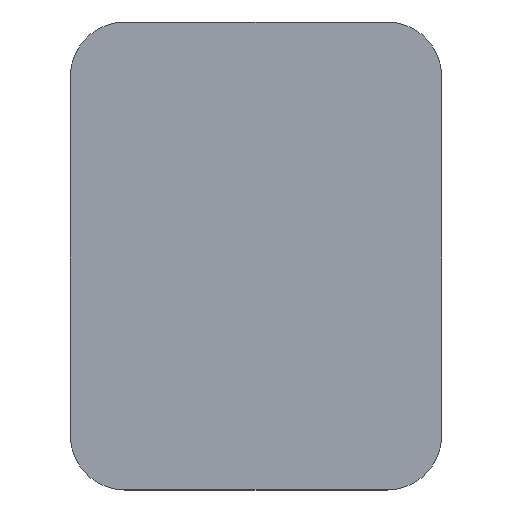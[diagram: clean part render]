
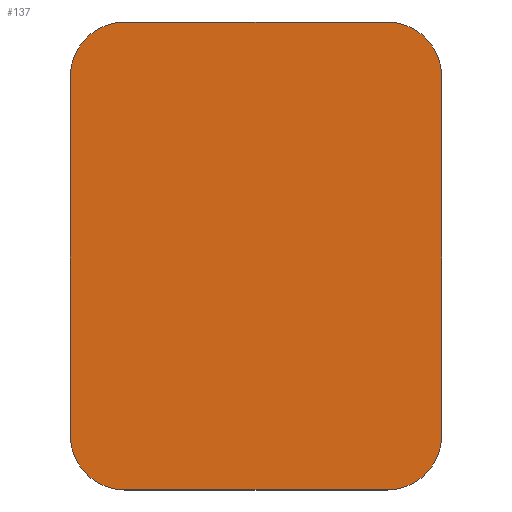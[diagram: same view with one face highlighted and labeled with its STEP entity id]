
A CAD part, top view. The second image highlights one B-rep face of the part: STEP entity #137.
In plain terms, the highlighted planar face has unit normal (0, 0, 1).
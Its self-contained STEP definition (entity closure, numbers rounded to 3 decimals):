
#21 = EDGE_CURVE('',#22,#24,#26,.T.);
#22 = VERTEX_POINT('',#23);
#23 = CARTESIAN_POINT('',(-26.9,-2.,13.6));
#24 = VERTEX_POINT('',#25);
#25 = CARTESIAN_POINT('',(-26.9,50.,13.6));
#26 = SURFACE_CURVE('',#27,(#31,#43),.PCURVE_S1.);
#27 = LINE('',#28,#29);
#28 = CARTESIAN_POINT('',(-26.9,-9.9,13.6));
#29 = VECTOR('',#30,1.);
#30 = DIRECTION('',(0.,1.,0.));
#31 = PCURVE('',#32,#37);
#32 = PLANE('',#33);
#33 = AXIS2_PLACEMENT_3D('',#34,#35,#36);
#34 = CARTESIAN_POINT('',(-26.9,-9.9,13.));
#35 = DIRECTION('',(1.,0.,0.));
#36 = DIRECTION('',(0.,0.,1.));
#37 = DEFINITIONAL_REPRESENTATION('',(#38),#42);
#38 = LINE('',#39,#40);
#39 = CARTESIAN_POINT('',(0.6,0.));
#40 = VECTOR('',#41,1.);
#41 = DIRECTION('',(0.,-1.));
#42 = ( GEOMETRIC_REPRESENTATION_CONTEXT(2) 
PARAMETRIC_REPRESENTATION_CONTEXT() REPRESENTATION_CONTEXT('2D SPACE',''
  ) );
#43 = PCURVE('',#44,#49);
#44 = PLANE('',#45);
#45 = AXIS2_PLACEMENT_3D('',#46,#47,#48);
#46 = CARTESIAN_POINT('',(-26.9,-9.9,13.6));
#47 = DIRECTION('',(0.,0.,1.));
#48 = DIRECTION('',(1.,0.,0.));
#49 = DEFINITIONAL_REPRESENTATION('',(#50),#54);
#50 = LINE('',#51,#52);
#51 = CARTESIAN_POINT('',(0.,0.));
#52 = VECTOR('',#53,1.);
#53 = DIRECTION('',(0.,1.));
#54 = ( GEOMETRIC_REPRESENTATION_CONTEXT(2) 
PARAMETRIC_REPRESENTATION_CONTEXT() REPRESENTATION_CONTEXT('2D SPACE',''
  ) );
#72 = CYLINDRICAL_SURFACE('',#73,7.9);
#73 = AXIS2_PLACEMENT_3D('',#74,#75,#76);
#74 = CARTESIAN_POINT('',(-19.,-2.,13.));
#75 = DIRECTION('',(0.,0.,1.));
#76 = DIRECTION('',(-1.,-0.,0.));
#126 = CYLINDRICAL_SURFACE('',#127,7.9);
#127 = AXIS2_PLACEMENT_3D('',#128,#129,#130);
#128 = CARTESIAN_POINT('',(-19.,50.,13.));
#129 = DIRECTION('',(0.,0.,1.));
#130 = DIRECTION('',(-1.,-0.,0.));
#137 = ADVANCED_FACE('',(#138),#44,.T.);
#138 = FACE_BOUND('',#139,.T.);
#139 = EDGE_LOOP('',(#140,#141,#165,#193,#226,#254,#283,#311));
#140 = ORIENTED_EDGE('',*,*,#21,.F.);
#141 = ORIENTED_EDGE('',*,*,#142,.T.);
#142 = EDGE_CURVE('',#22,#143,#145,.T.);
#143 = VERTEX_POINT('',#144);
#144 = CARTESIAN_POINT('',(-19.,-9.9,13.6));
#145 = SURFACE_CURVE('',#146,(#151,#158),.PCURVE_S1.);
#146 = CIRCLE('',#147,7.9);
#147 = AXIS2_PLACEMENT_3D('',#148,#149,#150);
#148 = CARTESIAN_POINT('',(-19.,-2.,13.6));
#149 = DIRECTION('',(0.,0.,1.));
#150 = DIRECTION('',(0.,-1.,0.));
#151 = PCURVE('',#44,#152);
#152 = DEFINITIONAL_REPRESENTATION('',(#153),#157);
#153 = CIRCLE('',#154,7.9);
#154 = AXIS2_PLACEMENT_2D('',#155,#156);
#155 = CARTESIAN_POINT('',(7.9,7.9));
#156 = DIRECTION('',(0.,-1.));
#157 = ( GEOMETRIC_REPRESENTATION_CONTEXT(2) 
PARAMETRIC_REPRESENTATION_CONTEXT() REPRESENTATION_CONTEXT('2D SPACE',''
  ) );
#158 = PCURVE('',#72,#159);
#159 = DEFINITIONAL_REPRESENTATION('',(#160),#164);
#160 = LINE('',#161,#162);
#161 = CARTESIAN_POINT('',(-4.712,0.6));
#162 = VECTOR('',#163,1.);
#163 = DIRECTION('',(1.,0.));
#164 = ( GEOMETRIC_REPRESENTATION_CONTEXT(2) 
PARAMETRIC_REPRESENTATION_CONTEXT() REPRESENTATION_CONTEXT('2D SPACE',''
  ) );
#165 = ORIENTED_EDGE('',*,*,#166,.T.);
#166 = EDGE_CURVE('',#143,#167,#169,.T.);
#167 = VERTEX_POINT('',#168);
#168 = CARTESIAN_POINT('',(19.,-9.9,13.6));
#169 = SURFACE_CURVE('',#170,(#174,#181),.PCURVE_S1.);
#170 = LINE('',#171,#172);
#171 = CARTESIAN_POINT('',(-26.9,-9.9,13.6));
#172 = VECTOR('',#173,1.);
#173 = DIRECTION('',(1.,0.,0.));
#174 = PCURVE('',#44,#175);
#175 = DEFINITIONAL_REPRESENTATION('',(#176),#180);
#176 = LINE('',#177,#178);
#177 = CARTESIAN_POINT('',(0.,0.));
#178 = VECTOR('',#179,1.);
#179 = DIRECTION('',(1.,0.));
#180 = ( GEOMETRIC_REPRESENTATION_CONTEXT(2) 
PARAMETRIC_REPRESENTATION_CONTEXT() REPRESENTATION_CONTEXT('2D SPACE',''
  ) );
#181 = PCURVE('',#182,#187);
#182 = PLANE('',#183);
#183 = AXIS2_PLACEMENT_3D('',#184,#185,#186);
#184 = CARTESIAN_POINT('',(-26.9,-9.9,13.));
#185 = DIRECTION('',(0.,1.,0.));
#186 = DIRECTION('',(0.,0.,1.));
#187 = DEFINITIONAL_REPRESENTATION('',(#188),#192);
#188 = LINE('',#189,#190);
#189 = CARTESIAN_POINT('',(0.6,0.));
#190 = VECTOR('',#191,1.);
#191 = DIRECTION('',(0.,1.));
#192 = ( GEOMETRIC_REPRESENTATION_CONTEXT(2) 
PARAMETRIC_REPRESENTATION_CONTEXT() REPRESENTATION_CONTEXT('2D SPACE',''
  ) );
#193 = ORIENTED_EDGE('',*,*,#194,.F.);
#194 = EDGE_CURVE('',#195,#167,#197,.T.);
#195 = VERTEX_POINT('',#196);
#196 = CARTESIAN_POINT('',(26.9,-2.,13.6));
#197 = SURFACE_CURVE('',#198,(#203,#214),.PCURVE_S1.);
#198 = CIRCLE('',#199,7.9);
#199 = AXIS2_PLACEMENT_3D('',#200,#201,#202);
#200 = CARTESIAN_POINT('',(19.,-2.,13.6));
#201 = DIRECTION('',(-0.,-0.,-1.));
#202 = DIRECTION('',(0.,-1.,0.));
#203 = PCURVE('',#44,#204);
#204 = DEFINITIONAL_REPRESENTATION('',(#205),#213);
#205 = ( BOUNDED_CURVE() B_SPLINE_CURVE(2,(#206,#207,#208,#209,#210,#211
,#212),.UNSPECIFIED.,.T.,.F.) B_SPLINE_CURVE_WITH_KNOTS((1,2,2,2,2,1),(
    -2.094,0.,2.094,4.189,6.283,
8.378),.UNSPECIFIED.) CURVE() GEOMETRIC_REPRESENTATION_ITEM() 
RATIONAL_B_SPLINE_CURVE((1.,0.5,1.,0.5,1.,0.5,1.)) REPRESENTATION_ITEM(
  '') );
#206 = CARTESIAN_POINT('',(45.9,0.));
#207 = CARTESIAN_POINT('',(32.217,0.));
#208 = CARTESIAN_POINT('',(39.058,11.85));
#209 = CARTESIAN_POINT('',(45.9,23.7));
#210 = CARTESIAN_POINT('',(52.742,11.85));
#211 = CARTESIAN_POINT('',(59.583,0.));
#212 = CARTESIAN_POINT('',(45.9,0.));
#213 = ( GEOMETRIC_REPRESENTATION_CONTEXT(2) 
PARAMETRIC_REPRESENTATION_CONTEXT() REPRESENTATION_CONTEXT('2D SPACE',''
  ) );
#214 = PCURVE('',#215,#220);
#215 = CYLINDRICAL_SURFACE('',#216,7.9);
#216 = AXIS2_PLACEMENT_3D('',#217,#218,#219);
#217 = CARTESIAN_POINT('',(19.,-2.,13.));
#218 = DIRECTION('',(0.,0.,1.));
#219 = DIRECTION('',(1.,0.,-0.));
#220 = DEFINITIONAL_REPRESENTATION('',(#221),#225);
#221 = LINE('',#222,#223);
#222 = CARTESIAN_POINT('',(4.712,0.6));
#223 = VECTOR('',#224,1.);
#224 = DIRECTION('',(-1.,0.));
#225 = ( GEOMETRIC_REPRESENTATION_CONTEXT(2) 
PARAMETRIC_REPRESENTATION_CONTEXT() REPRESENTATION_CONTEXT('2D SPACE',''
  ) );
#226 = ORIENTED_EDGE('',*,*,#227,.T.);
#227 = EDGE_CURVE('',#195,#228,#230,.T.);
#228 = VERTEX_POINT('',#229);
#229 = CARTESIAN_POINT('',(26.9,50.,13.6));
#230 = SURFACE_CURVE('',#231,(#235,#242),.PCURVE_S1.);
#231 = LINE('',#232,#233);
#232 = CARTESIAN_POINT('',(26.9,-9.9,13.6));
#233 = VECTOR('',#234,1.);
#234 = DIRECTION('',(0.,1.,0.));
#235 = PCURVE('',#44,#236);
#236 = DEFINITIONAL_REPRESENTATION('',(#237),#241);
#237 = LINE('',#238,#239);
#238 = CARTESIAN_POINT('',(53.8,0.));
#239 = VECTOR('',#240,1.);
#240 = DIRECTION('',(0.,1.));
#241 = ( GEOMETRIC_REPRESENTATION_CONTEXT(2) 
PARAMETRIC_REPRESENTATION_CONTEXT() REPRESENTATION_CONTEXT('2D SPACE',''
  ) );
#242 = PCURVE('',#243,#248);
#243 = PLANE('',#244);
#244 = AXIS2_PLACEMENT_3D('',#245,#246,#247);
#245 = CARTESIAN_POINT('',(26.9,-9.9,13.));
#246 = DIRECTION('',(1.,0.,0.));
#247 = DIRECTION('',(0.,0.,1.));
#248 = DEFINITIONAL_REPRESENTATION('',(#249),#253);
#249 = LINE('',#250,#251);
#250 = CARTESIAN_POINT('',(0.6,0.));
#251 = VECTOR('',#252,1.);
#252 = DIRECTION('',(0.,-1.));
#253 = ( GEOMETRIC_REPRESENTATION_CONTEXT(2) 
PARAMETRIC_REPRESENTATION_CONTEXT() REPRESENTATION_CONTEXT('2D SPACE',''
  ) );
#254 = ORIENTED_EDGE('',*,*,#255,.T.);
#255 = EDGE_CURVE('',#228,#256,#258,.T.);
#256 = VERTEX_POINT('',#257);
#257 = CARTESIAN_POINT('',(19.,57.9,13.6));
#258 = SURFACE_CURVE('',#259,(#264,#271),.PCURVE_S1.);
#259 = CIRCLE('',#260,7.9);
#260 = AXIS2_PLACEMENT_3D('',#261,#262,#263);
#261 = CARTESIAN_POINT('',(19.,50.,13.6));
#262 = DIRECTION('',(0.,0.,1.));
#263 = DIRECTION('',(0.,-1.,0.));
#264 = PCURVE('',#44,#265);
#265 = DEFINITIONAL_REPRESENTATION('',(#266),#270);
#266 = CIRCLE('',#267,7.9);
#267 = AXIS2_PLACEMENT_2D('',#268,#269);
#268 = CARTESIAN_POINT('',(45.9,59.9));
#269 = DIRECTION('',(0.,-1.));
#270 = ( GEOMETRIC_REPRESENTATION_CONTEXT(2) 
PARAMETRIC_REPRESENTATION_CONTEXT() REPRESENTATION_CONTEXT('2D SPACE',''
  ) );
#271 = PCURVE('',#272,#277);
#272 = CYLINDRICAL_SURFACE('',#273,7.9);
#273 = AXIS2_PLACEMENT_3D('',#274,#275,#276);
#274 = CARTESIAN_POINT('',(19.,50.,13.));
#275 = DIRECTION('',(0.,0.,1.));
#276 = DIRECTION('',(1.,0.,-0.));
#277 = DEFINITIONAL_REPRESENTATION('',(#278),#282);
#278 = LINE('',#279,#280);
#279 = CARTESIAN_POINT('',(-1.571,0.6));
#280 = VECTOR('',#281,1.);
#281 = DIRECTION('',(1.,0.));
#282 = ( GEOMETRIC_REPRESENTATION_CONTEXT(2) 
PARAMETRIC_REPRESENTATION_CONTEXT() REPRESENTATION_CONTEXT('2D SPACE',''
  ) );
#283 = ORIENTED_EDGE('',*,*,#284,.F.);
#284 = EDGE_CURVE('',#285,#256,#287,.T.);
#285 = VERTEX_POINT('',#286);
#286 = CARTESIAN_POINT('',(-19.,57.9,13.6));
#287 = SURFACE_CURVE('',#288,(#292,#299),.PCURVE_S1.);
#288 = LINE('',#289,#290);
#289 = CARTESIAN_POINT('',(-26.9,57.9,13.6));
#290 = VECTOR('',#291,1.);
#291 = DIRECTION('',(1.,0.,0.));
#292 = PCURVE('',#44,#293);
#293 = DEFINITIONAL_REPRESENTATION('',(#294),#298);
#294 = LINE('',#295,#296);
#295 = CARTESIAN_POINT('',(0.,67.8));
#296 = VECTOR('',#297,1.);
#297 = DIRECTION('',(1.,0.));
#298 = ( GEOMETRIC_REPRESENTATION_CONTEXT(2) 
PARAMETRIC_REPRESENTATION_CONTEXT() REPRESENTATION_CONTEXT('2D SPACE',''
  ) );
#299 = PCURVE('',#300,#305);
#300 = PLANE('',#301);
#301 = AXIS2_PLACEMENT_3D('',#302,#303,#304);
#302 = CARTESIAN_POINT('',(-26.9,57.9,13.));
#303 = DIRECTION('',(0.,1.,0.));
#304 = DIRECTION('',(0.,0.,1.));
#305 = DEFINITIONAL_REPRESENTATION('',(#306),#310);
#306 = LINE('',#307,#308);
#307 = CARTESIAN_POINT('',(0.6,0.));
#308 = VECTOR('',#309,1.);
#309 = DIRECTION('',(0.,1.));
#310 = ( GEOMETRIC_REPRESENTATION_CONTEXT(2) 
PARAMETRIC_REPRESENTATION_CONTEXT() REPRESENTATION_CONTEXT('2D SPACE',''
  ) );
#311 = ORIENTED_EDGE('',*,*,#312,.F.);
#312 = EDGE_CURVE('',#24,#285,#313,.T.);
#313 = SURFACE_CURVE('',#314,(#319,#330),.PCURVE_S1.);
#314 = CIRCLE('',#315,7.9);
#315 = AXIS2_PLACEMENT_3D('',#316,#317,#318);
#316 = CARTESIAN_POINT('',(-19.,50.,13.6));
#317 = DIRECTION('',(-0.,-0.,-1.));
#318 = DIRECTION('',(0.,-1.,0.));
#319 = PCURVE('',#44,#320);
#320 = DEFINITIONAL_REPRESENTATION('',(#321),#329);
#321 = ( BOUNDED_CURVE() B_SPLINE_CURVE(2,(#322,#323,#324,#325,#326,#327
,#328),.UNSPECIFIED.,.T.,.F.) B_SPLINE_CURVE_WITH_KNOTS((1,2,2,2,2,1),(
    -2.094,0.,2.094,4.189,6.283,
8.378),.UNSPECIFIED.) CURVE() GEOMETRIC_REPRESENTATION_ITEM() 
RATIONAL_B_SPLINE_CURVE((1.,0.5,1.,0.5,1.,0.5,1.)) REPRESENTATION_ITEM(
  '') );
#322 = CARTESIAN_POINT('',(7.9,52.));
#323 = CARTESIAN_POINT('',(-5.783,52.));
#324 = CARTESIAN_POINT('',(1.058,63.85));
#325 = CARTESIAN_POINT('',(7.9,75.7));
#326 = CARTESIAN_POINT('',(14.742,63.85));
#327 = CARTESIAN_POINT('',(21.583,52.));
#328 = CARTESIAN_POINT('',(7.9,52.));
#329 = ( GEOMETRIC_REPRESENTATION_CONTEXT(2) 
PARAMETRIC_REPRESENTATION_CONTEXT() REPRESENTATION_CONTEXT('2D SPACE',''
  ) );
#330 = PCURVE('',#126,#331);
#331 = DEFINITIONAL_REPRESENTATION('',(#332),#336);
#332 = LINE('',#333,#334);
#333 = CARTESIAN_POINT('',(1.571,0.6));
#334 = VECTOR('',#335,1.);
#335 = DIRECTION('',(-1.,0.));
#336 = ( GEOMETRIC_REPRESENTATION_CONTEXT(2) 
PARAMETRIC_REPRESENTATION_CONTEXT() REPRESENTATION_CONTEXT('2D SPACE',''
  ) );
